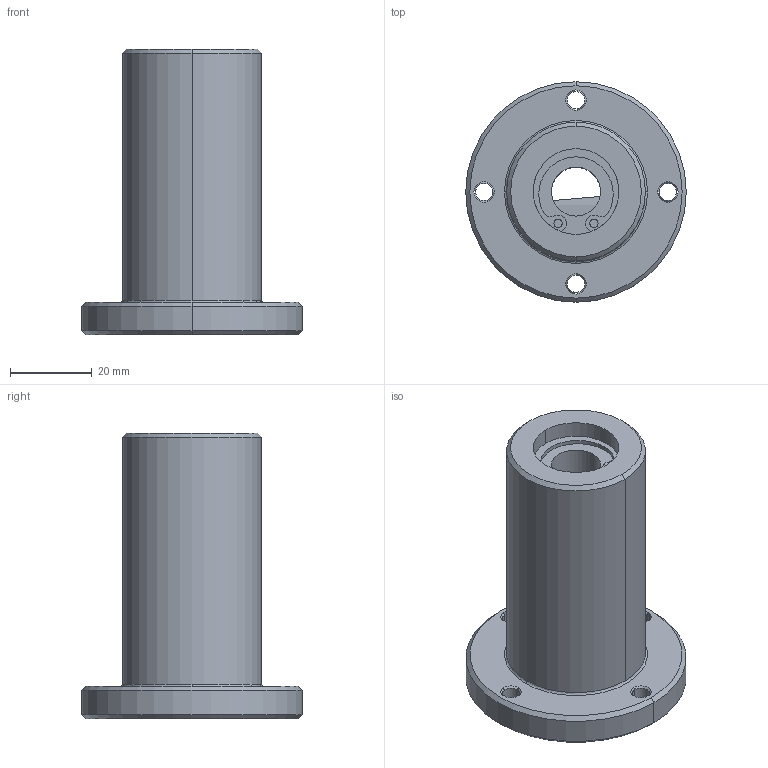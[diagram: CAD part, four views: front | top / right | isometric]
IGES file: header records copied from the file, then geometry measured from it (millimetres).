
Start section: 3D InterOp IGES (Version 21 0 1), Spatial Corp. Copyright (c) 1999-2007.
Global section: file name: LCFD-12AVUU.igs; native system: Spatial Corp.; preprocessor: 3D InterOp GENERIC/IGES 3.0; author: Noname; organization: Noname; date: 20220517.163537; units: millimetre
Bounding box: 54 x 54 x 70 mm (x, y, z)
Surface area: 15292.8 mm2 (no closed solid volume)
Topology: 0 solids, 0 shells, 88 faces, 434 edges, 434 vertices
Faces by surface type: revolution 72, extrusion 16
